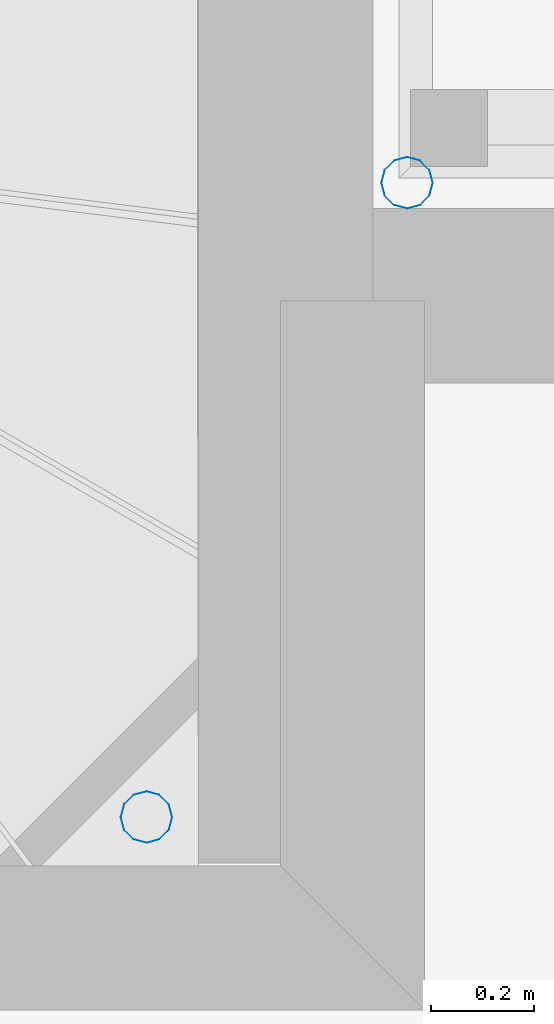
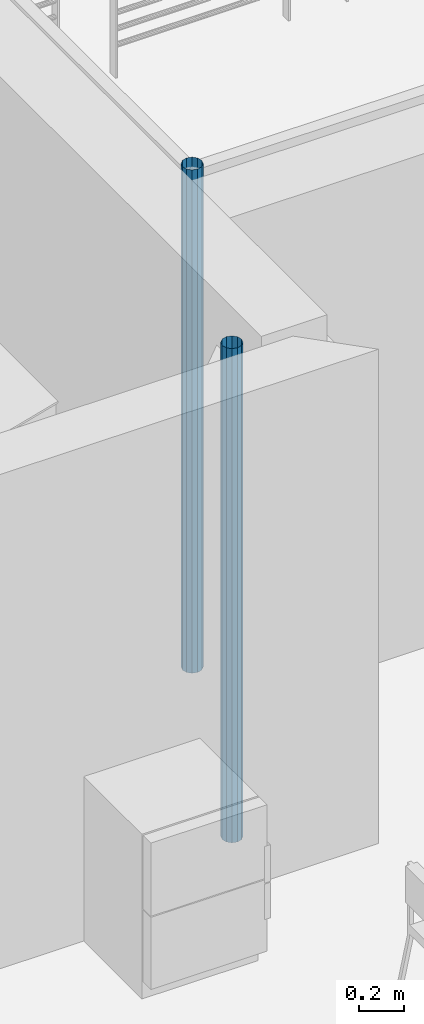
# One storey, part 92 of 171: 2 discrete accessories.
"""IFC2X3 building model written with IfcOpenShell, lengths in millimetres."""

from ifc_helpers import new_model, entity, si_unit, converted_unit, derived_unit, money_unit, direction, frame, origin_with_axes, place, context, subcontext, project, spatial, open_shell, surface_model, source, transform, mapped, type_object, element, save


model = new_model("IFC2X3")

# Units and contexts
model_context = context("Model", 3, precision=0.01, world=origin_with_axes(), true_north=direction((0.0, 1.0)))
body_context = subcontext(model_context, "Body", "Model", "MODEL_VIEW")
ifc_project = project(units=[si_unit("LENGTHUNIT", "METRE", prefix="MILLI"), si_unit("AREAUNIT", "SQUARE_METRE"), si_unit("VOLUMEUNIT", "CUBIC_METRE"), converted_unit("PLANEANGLEUNIT", "DEGREE", entity("IfcPlaneAngleMeasure", 0.0174532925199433), si_unit("PLANEANGLEUNIT", "RADIAN"), dimensions=[0, 0, 0, 0, 0, 0, 0]), money_unit("USD"), converted_unit("TIMEUNIT", "Year", entity("IfcTimeMeasure", 31557600.0), si_unit("TIMEUNIT", "SECOND"), dimensions=[0, 0, 1, 0, 0, 0, 0]), si_unit("MASSUNIT", "GRAM", prefix="KILO"), si_unit("THERMODYNAMICTEMPERATUREUNIT", "DEGREE_CELSIUS"), si_unit("LUMINOUSINTENSITYUNIT", "LUMEN"), si_unit("ENERGYUNIT", "JOULE", prefix="MEGA"), derived_unit("THERMALCONDUCTANCEUNIT", [(si_unit("POWERUNIT", "WATT"), 1), (si_unit("LENGTHUNIT", "METRE"), -1), (si_unit("THERMODYNAMICTEMPERATUREUNIT", "KELVIN"), -1)]), derived_unit("SPECIFICHEATCAPACITYUNIT", [(si_unit("ENERGYUNIT", "JOULE"), 1), (si_unit("MASSUNIT", "GRAM", prefix="KILO"), -1), (si_unit("THERMODYNAMICTEMPERATUREUNIT", "KELVIN"), -1)]), derived_unit("MASSDENSITYUNIT", [(si_unit("MASSUNIT", "GRAM", prefix="KILO"), 1), (si_unit("VOLUMEUNIT", "CUBIC_METRE"), -1)])], contexts=[model_context])

# Site, building, storey
site_placement = place(None, origin_with_axes())
site = spatial("IfcSite", under=ifc_project, at=site_placement, Name="Site", CompositionType="ELEMENT")
building_placement = place(site_placement, origin_with_axes())
building = spatial("IfcBuilding", under=site, at=building_placement, Name="Bâtiment", CompositionType="ELEMENT")
storey_placement = place(building_placement, frame((0.0, 0.0, 3000.0), z_axis=(0.0, 0.0, 1.0), x_axis=(1.0, 0.0, 0.0)))
storey = spatial("IfcBuildingStorey", under=building, at=storey_placement, Name="rdc", CompositionType="ELEMENT", Elevation=3000.0)

# Discrete accessories
discrete_accessory_type = type_object("IfcDiscreteAccessoryType", Name="Tuyau descente 27")
shared_shape_1 = source(origin_with_axes(), body_context, "Body", "SurfaceModel", [
    surface_model("IfcShellBasedSurfaceModel", [(-50.0, 0.0, 2700.0), (-50.0, 0.0, 0.0), (-43.30127018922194, -25.0, 0.0), (-43.30127018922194, -25.0, 2700.0), (-43.30127018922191, 25.00000000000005, 2700.0), (-43.30127018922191, 25.00000000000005, 0.0), (-25.00000000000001, -43.30127018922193, 0.0), (-25.00000000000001, -43.30127018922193, 2700.0), (-24.99999999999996, 43.30127018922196, 2700.0), (-24.99999999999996, 43.30127018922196, 0.0), (0.0, -50.0, 0.0), (0.0, -50.0, 2700.0), (0.0, 50.0, 2700.0), (0.0, 50.0, 0.0), (24.99999999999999, -43.30127018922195, 0.0), (24.99999999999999, -43.30127018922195, 2700.0), (25.00000000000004, 43.30127018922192, 2700.0), (25.00000000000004, 43.30127018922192, 0.0), (43.30127018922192, -25.00000000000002, 0.0), (43.30127018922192, -25.00000000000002, 2700.0), (43.30127018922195, 24.99999999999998, 2700.0), (43.30127018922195, 24.99999999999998, 0.0), (50.0, 0.0, 0.0), (50.0, 0.0, 2700.0)], [open_shell([[[0, 1, 2, 3]], [[4, 5, 1, 0]], [[3, 2, 6, 7]], [[8, 9, 5, 4]], [[7, 6, 10, 11]], [[12, 13, 9, 8]], [[11, 10, 14, 15]], [[16, 17, 13, 12]], [[15, 14, 18, 19]], [[20, 21, 17, 16]], [[19, 18, 22, 23]], [[23, 22, 21, 20]]])]),
])
discrete_accessory_1_placement = place(storey_placement, frame((2229212.465333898, -637138.0577439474, 0.0), z_axis=(0.0, 0.0, 1.0), x_axis=(-0.9999999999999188, 4.028529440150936e-07, 0.0)))
element("IfcDiscreteAccessory", 1, at=discrete_accessory_1_placement, inside=storey, type_object=discrete_accessory_type, Name="Obj.-318", context=body_context, shape_type="MappedRepresentation", body=[
    mapped(shared_shape_1, transform((0.0, 0.0, 0.0))),
])
shared_shape_2 = source(origin_with_axes(), body_context, "Body", "SurfaceModel", [
    surface_model("IfcShellBasedSurfaceModel", [(50.0, 0.0, 2750.0), (43.30127018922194, -25.0, 2750.0), (43.30127018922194, -25.0, 0.0), (50.0, 0.0, 0.0), (25.00000000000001, -43.30127018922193, 2750.0), (25.00000000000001, -43.30127018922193, 0.0), (43.30127018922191, 25.00000000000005, 2750.0), (43.30127018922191, 25.00000000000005, 0.0), (0.0, -50.0, 2750.0), (0.0, -50.0, 0.0), (24.99999999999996, 43.30127018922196, 2750.0), (24.99999999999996, 43.30127018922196, 0.0), (-24.99999999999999, -43.30127018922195, 2750.0), (-24.99999999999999, -43.30127018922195, 0.0), (0.0, 50.0, 2750.0), (0.0, 50.0, 0.0), (-43.30127018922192, -25.00000000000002, 2750.0), (-43.30127018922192, -25.00000000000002, 0.0), (-25.00000000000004, 43.30127018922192, 2750.0), (-25.00000000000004, 43.30127018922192, 0.0), (-50.0, 0.0, 2750.0), (-50.0, 0.0, 0.0), (-43.30127018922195, 24.99999999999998, 2750.0), (-43.30127018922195, 24.99999999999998, 0.0)], [open_shell([[[0, 1, 2, 3]], [[1, 4, 5, 2]], [[6, 0, 3, 7]], [[4, 8, 9, 5]], [[10, 6, 7, 11]], [[8, 12, 13, 9]], [[14, 10, 11, 15]], [[12, 16, 17, 13]], [[18, 14, 15, 19]], [[16, 20, 21, 17]], [[22, 18, 19, 23]], [[20, 22, 23, 21]]])]),
])
discrete_accessory_2_placement = place(storey_placement, frame((2229719.732726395, -635903.3438947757, 0.0), z_axis=(0.0, 0.0, 1.0), x_axis=(1.0, 0.0, 0.0)))
element("IfcDiscreteAccessory", 2, at=discrete_accessory_2_placement, inside=storey, type_object=discrete_accessory_type, Name="Obj.-318", context=body_context, shape_type="MappedRepresentation", body=[
    mapped(shared_shape_2, transform((0.0, 0.0, 0.0))),
])

save(model, "model.ifc")
